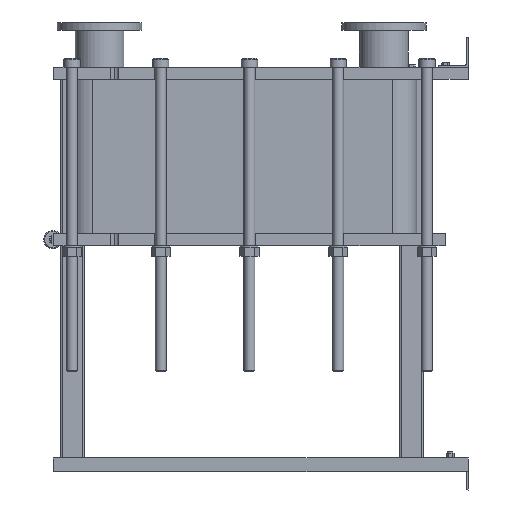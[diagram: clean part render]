
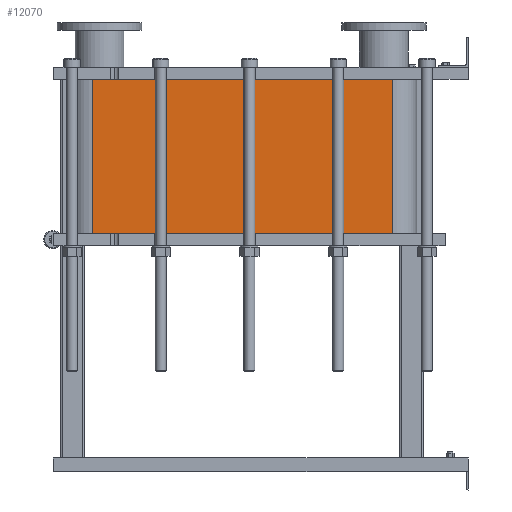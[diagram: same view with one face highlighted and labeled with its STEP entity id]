
A CAD part, left-side view. The second image highlights one B-rep face of the part: STEP entity #12070.
In plain terms, the highlighted planar face has unit normal (-1, 0, 0).
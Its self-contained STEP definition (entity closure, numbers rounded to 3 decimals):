
#1064=LINE('',#21140,#2164);
#1065=LINE('',#21144,#2165);
#1066=LINE('',#21146,#2166);
#1067=LINE('',#21147,#2167);
#2164=VECTOR('',#15790,10.);
#2165=VECTOR('',#15795,10.);
#2166=VECTOR('',#15796,10.);
#2167=VECTOR('',#15797,10.);
#3304=FACE_OUTER_BOUND('',#4091,.T.);
#4091=EDGE_LOOP('',(#9793,#9794,#9795,#9796));
#5677=VERTEX_POINT('',#21137);
#5678=VERTEX_POINT('',#21139);
#5679=VERTEX_POINT('',#21143);
#5680=VERTEX_POINT('',#21145);
#7118=EDGE_CURVE('',#5678,#5677,#1064,.T.);
#7120=EDGE_CURVE('',#5677,#5679,#1065,.T.);
#7121=EDGE_CURVE('',#5680,#5679,#1066,.T.);
#7122=EDGE_CURVE('',#5680,#5678,#1067,.T.);
#9793=ORIENTED_EDGE('',*,*,#7120,.T.);
#9794=ORIENTED_EDGE('',*,*,#7121,.F.);
#9795=ORIENTED_EDGE('',*,*,#7122,.T.);
#9796=ORIENTED_EDGE('',*,*,#7118,.T.);
#11441=PLANE('',#13191);
#12070=ADVANCED_FACE('',(#3304),#11441,.T.);
#13191=AXIS2_PLACEMENT_3D('',#21142,#15793,#15794);
#15790=DIRECTION('',(0.,0.,-1.));
#15793=DIRECTION('center_axis',(-1.,0.,0.));
#15794=DIRECTION('ref_axis',(0.,1.,0.));
#15795=DIRECTION('',(0.,-1.,0.));
#15796=DIRECTION('',(0.,0.,-1.));
#15797=DIRECTION('',(0.,1.,0.));
#21137=CARTESIAN_POINT('',(-248.152,1243.818,-510.6));
#21139=CARTESIAN_POINT('',(-248.152,1243.818,0.));
#21140=CARTESIAN_POINT('',(-248.152,1243.818,0.));
#21142=CARTESIAN_POINT('Origin',(-248.152,251.818,0.));
#21143=CARTESIAN_POINT('',(-248.152,251.818,-510.6));
#21144=CARTESIAN_POINT('',(-248.152,499.818,-510.6));
#21145=CARTESIAN_POINT('',(-248.152,251.818,0.));
#21146=CARTESIAN_POINT('',(-248.152,251.818,0.));
#21147=CARTESIAN_POINT('',(-248.152,251.818,0.));
